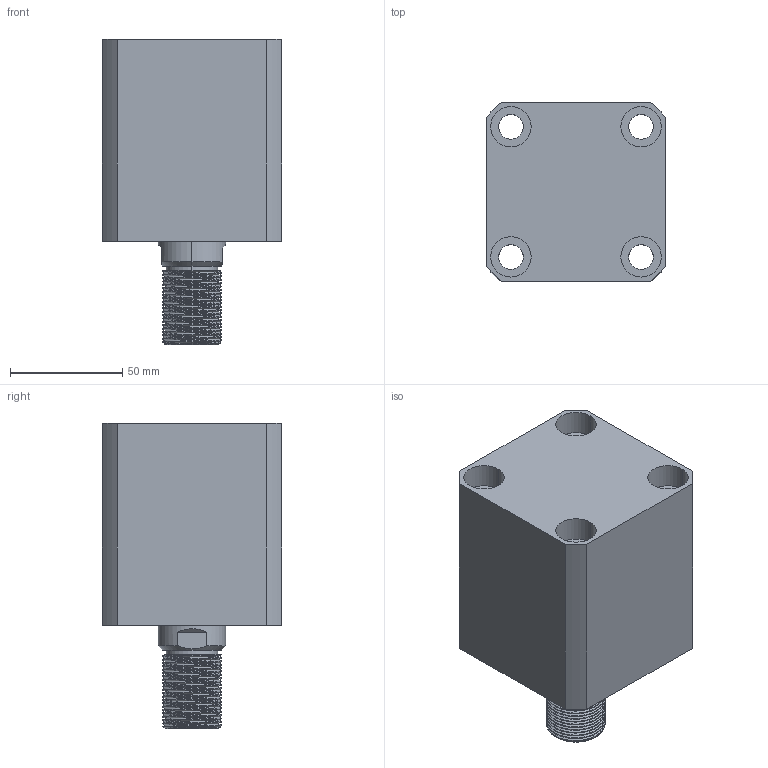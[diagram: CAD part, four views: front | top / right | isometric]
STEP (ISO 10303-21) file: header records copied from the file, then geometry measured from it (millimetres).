
FILE_DESCRIPTION (( 'STEP AP203' ), '1' );
FILE_NAME ('CHTB-SDMA50-30W.STEP', '2018-05-19T01:44:28', ( '' ), ( '' ), 'SwSTEP 2.0', 'SolidWorks 2015', '' );
FILE_SCHEMA (( 'CONFIG_CONTROL_DESIGN' ));
Length unit declared in the file: millimetre
Products named in the file (5): 掛极SDMA50-30W; M6; 活塞杆SDMA50-30W; CHTM-SDMA50QG; CHTB-SDMA50-30W
Assembly tree (5 placements, depth 2):
  CHTB-SDMA50-30W
    掛极SDMA50-30W
    活塞杆SDMA50-30W
    CHTM-SDMA50QG
    M6  x2
Bounding box: 80 x 80 x 136 mm (x, y, z)
Volume: 501387.3 mm3; surface area: 103615.3 mm2
Topology: 5 solids, 5 shells, 312 faces, 831 edges, 553 vertices
Faces by surface type: cylinder 179, plane 60, cone 29, bspline 28, torus 16
Entity records: 17949 total; most frequent: CARTESIAN_POINT 11067, ORIENTED_EDGE 1468, DIRECTION 1169, EDGE_CURVE 734, VERTEX_POINT 492, AXIS2_PLACEMENT_3D 472, EDGE_LOOP 320, ADVANCED_FACE 277
